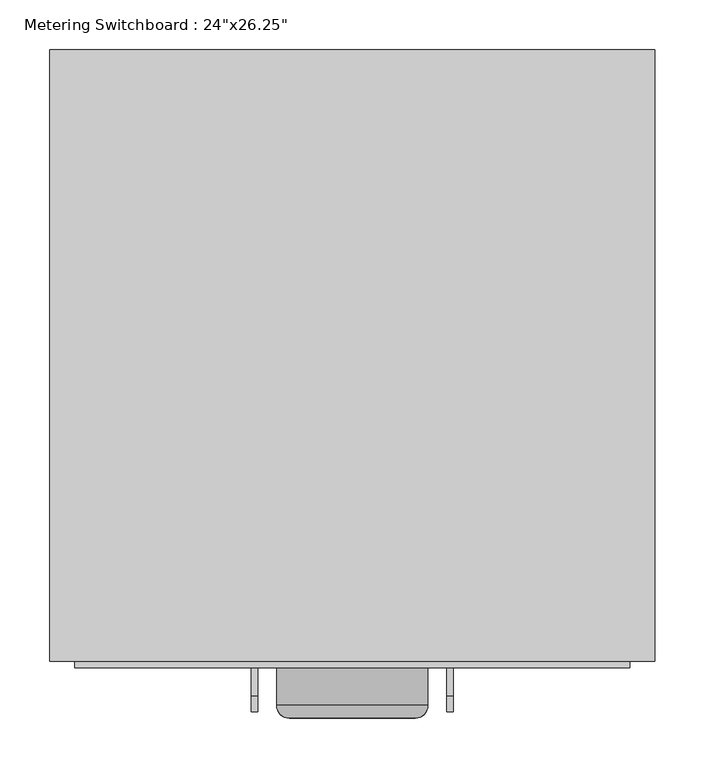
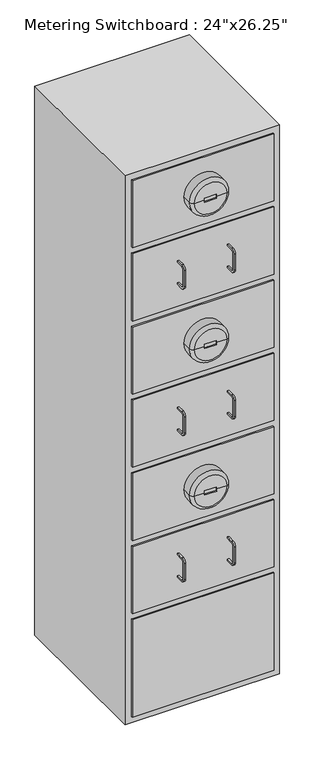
"""IFC4 building model written with IfcOpenShell, lengths in millimetres: proxy geometry."""

from ifc_helpers import new_model, si_unit, point, frame, frame_2d, origin, origin_with_axes, place, context, project, spatial, polyline, circle_curve, ellipse_curve, trimmed, segment, composite_curve, outline, extrude, source, transform, mapped, element, save
from ifc_brep_helpers import plane_surface, cylinder_surface, revolved_surface, advanced_brep


def proxy_f2fcea41(model_context):
    return source(origin(), model_context, "Body", "SolidModel", [
        advanced_brep(
        [(0.0, -622.3, 2120.9), (76.2, -622.3, 2120.9), (-76.2, -622.3, 2120.9), (-63.5, -673.1, 2120.9), (63.5, -673.1, 2120.9), (25.4, -673.1, 2120.9), (25.4, -673.1, 2111.375), (-25.4, -673.1, 2111.375), (-25.4, -673.1, 2120.9), (-25.4, -673.1, 2130.425), (25.4, -673.1, 2130.425), (-76.2, -660.4, 2120.9), (76.2, -660.4, 2120.9), (25.4, -666.75, 2130.425), (-25.4, -666.75, 2130.425), (-25.4, -666.75, 2111.375), (25.4, -666.75, 2111.375)],
        [
            (0, 1),
            (1, 2, circle_curve(frame((0.0, -622.3, 2120.9), z_axis=(0.0, 1.0, 0.0), x_axis=(1.0, 0.0, 0.0)), 76.2)),
            (2, 0),
            (2, 1, circle_curve(frame((0.0, -622.3, 2120.9), z_axis=(0.0, 1.0, 0.0), x_axis=(1.0, 0.0, 0.0)), 76.2)),
            (3, 4, circle_curve(frame((0.0, -673.1, 2120.9), z_axis=(0.0, -1.0, 0.0), x_axis=(1.0, 0.0, 0.0)), 63.5)),
            (4, 5),
            (5, 6),
            (6, 7),
            (7, 8),
            (8, 3),
            (4, 3, circle_curve(frame((0.0, -673.1, 2120.9), z_axis=(0.0, -1.0, 0.0), x_axis=(1.0, 0.0, 0.0)), 63.5)),
            (8, 9),
            (9, 10),
            (10, 5),
            (3, 11, circle_curve(frame((-63.5, -660.4, 2120.9), z_axis=(0.0, 0.0, -1.0), x_axis=(-1.0, 0.0, 0.0)), 12.7)),
            (11, 12, circle_curve(frame((0.0, -660.4, 2120.9), z_axis=(0.0, -1.0, 0.0), x_axis=(1.0, 0.0, 0.0)), 76.2)),
            (12, 4, circle_curve(frame((63.5, -660.4, 2120.9), z_axis=(0.0, 0.0, -1.0), x_axis=(1.0, 0.0, 0.0)), 12.7)),
            (12, 11, circle_curve(frame((0.0, -660.4, 2120.9), z_axis=(0.0, -1.0, 0.0), x_axis=(1.0, 0.0, 0.0)), 76.2)),
            (1, 12),
            (11, 2),
            (13, 14),
            (14, 15),
            (15, 16),
            (16, 13),
            (13, 10),
            (9, 14),
            (7, 15),
            (6, 16),
        ],
        [
            plane_surface(frame((0.0, -622.3, 2120.9), z_axis=(0.0, 1.0, 0.0), x_axis=(1.0, 0.0, 0.0))),
            plane_surface(frame((0.0, -673.1, 2120.9), z_axis=(0.0, -1.0, 0.0), x_axis=(1.0, 0.0, 0.0))),
            revolved_surface(trimmed(ellipse_curve(frame((63.5, -660.4, 2120.9), z_axis=(0.0, 0.0, 1.0), x_axis=(1.0, 0.0, 0.0)), 12.7, 12.7), [point((63.5, -673.1, 2120.9))], [point((76.2, -660.4, 2120.9))], True, "CARTESIAN"), (0.0, -622.3, 2120.9), (0.0, 1.0, 0.0)),
            cylinder_surface(frame((0.0, -622.3, 2120.9), z_axis=(0.0, 1.0, 0.0), x_axis=(1.0, 0.0, 0.0)), 76.2),
            plane_surface(frame((-25.4, -666.75, 2130.425), z_axis=(0.0, -1.0, 0.0), x_axis=(1.0, 0.0, 0.0))),
            plane_surface(frame((25.4, -673.1, 2130.425), z_axis=(0.0, 0.0, -1.0), x_axis=(0.0, 1.0, 0.0))),
            plane_surface(frame((-25.4, -673.1, 2130.425), z_axis=(1.0, 0.0, 0.0), x_axis=(0.0, 1.0, 0.0))),
            plane_surface(frame((-25.4, -673.1, 2111.375), z_axis=(0.0, 0.0, 1.0), x_axis=(0.0, 1.0, 0.0))),
            plane_surface(frame((25.4, -673.1, 2111.375), z_axis=(-1.0, 0.0, 0.0), x_axis=(0.0, 1.0, 0.0))),
        ],
        [
            (0, [[1, 2, 3]]),
            (0, [[-1, -3, 4]]),
            (1, [[5, 6, 7, 8, 9, 10]]),
            (1, [[11, -10, 12, 13, 14, -6]]),
            (2, [[-5, 15, 16, 17]]),
            (2, [[-11, -17, 18, -15]]),
            (3, [[-2, 19, -16, 20]]),
            (3, [[-4, -20, -18, -19]]),
            (4, [[21, 22, 23, 24]]),
            (5, [[-21, 25, -13, 26]]),
            (6, [[-22, -26, -12, -9, 27]]),
            (7, [[-23, -27, -8, 28]]),
            (8, [[-24, -28, -7, -14, -25]]),
        ],
    ),
        advanced_brep(
        [(0.0, -622.3, 1511.3), (76.2, -622.3, 1511.3), (-76.2, -622.3, 1511.3), (-63.5, -673.1, 1511.3), (63.5, -673.1, 1511.3), (25.4, -673.1, 1511.3), (25.4, -673.1, 1501.775), (-25.4, -673.1, 1501.775), (-25.4, -673.1, 1511.3), (-25.4, -673.1, 1520.825), (25.4, -673.1, 1520.825), (-76.2, -660.4, 1511.3), (76.2, -660.4, 1511.3), (25.4, -666.75, 1520.825), (-25.4, -666.75, 1520.825), (-25.4, -666.75, 1501.775), (25.4, -666.75, 1501.775)],
        [
            (0, 1),
            (1, 2, circle_curve(frame((0.0, -622.3, 1511.3), z_axis=(0.0, 1.0, 0.0), x_axis=(1.0, 0.0, 0.0)), 76.2)),
            (2, 0),
            (2, 1, circle_curve(frame((0.0, -622.3, 1511.3), z_axis=(0.0, 1.0, 0.0), x_axis=(1.0, 0.0, 0.0)), 76.2)),
            (3, 4, circle_curve(frame((0.0, -673.1, 1511.3), z_axis=(0.0, -1.0, 0.0), x_axis=(1.0, 0.0, 0.0)), 63.5)),
            (4, 5),
            (5, 6),
            (6, 7),
            (7, 8),
            (8, 3),
            (4, 3, circle_curve(frame((0.0, -673.1, 1511.3), z_axis=(0.0, -1.0, 0.0), x_axis=(1.0, 0.0, 0.0)), 63.5)),
            (8, 9),
            (9, 10),
            (10, 5),
            (3, 11, circle_curve(frame((-63.5, -660.4, 1511.3), z_axis=(0.0, 0.0, -1.0), x_axis=(-1.0, 0.0, 0.0)), 12.7)),
            (11, 12, circle_curve(frame((0.0, -660.4, 1511.3), z_axis=(0.0, -1.0, 0.0), x_axis=(1.0, 0.0, 0.0)), 76.2)),
            (12, 4, circle_curve(frame((63.5, -660.4, 1511.3), z_axis=(0.0, 0.0, -1.0), x_axis=(1.0, 0.0, 0.0)), 12.7)),
            (12, 11, circle_curve(frame((0.0, -660.4, 1511.3), z_axis=(0.0, -1.0, 0.0), x_axis=(1.0, 0.0, 0.0)), 76.2)),
            (1, 12),
            (11, 2),
            (13, 14),
            (14, 15),
            (15, 16),
            (16, 13),
            (13, 10),
            (9, 14),
            (7, 15),
            (6, 16),
        ],
        [
            plane_surface(frame((0.0, -622.3, 1511.3), z_axis=(0.0, 1.0, 0.0), x_axis=(1.0, 0.0, 0.0))),
            plane_surface(frame((0.0, -673.1, 1511.3), z_axis=(0.0, -1.0, 0.0), x_axis=(1.0, 0.0, 0.0))),
            revolved_surface(trimmed(ellipse_curve(frame((63.5, -660.4, 1511.3), z_axis=(0.0, 0.0, 1.0), x_axis=(1.0, 0.0, 0.0)), 12.7, 12.7), [point((63.5, -673.1, 1511.3))], [point((76.2, -660.4, 1511.3))], True, "CARTESIAN"), (0.0, -622.3, 1511.3), (0.0, 1.0, 0.0)),
            cylinder_surface(frame((0.0, -622.3, 1511.3), z_axis=(0.0, 1.0, 0.0), x_axis=(1.0, 0.0, 0.0)), 76.2),
            plane_surface(frame((-25.4, -666.75, 1520.825), z_axis=(0.0, -1.0, 0.0), x_axis=(1.0, 0.0, 0.0))),
            plane_surface(frame((25.4, -673.1, 1520.825), z_axis=(0.0, 0.0, -1.0), x_axis=(0.0, 1.0, 0.0))),
            plane_surface(frame((-25.4, -673.1, 1520.825), z_axis=(1.0, 0.0, 0.0), x_axis=(0.0, 1.0, 0.0))),
            plane_surface(frame((-25.4, -673.1, 1501.775), z_axis=(0.0, 0.0, 1.0), x_axis=(0.0, 1.0, 0.0))),
            plane_surface(frame((25.4, -673.1, 1501.775), z_axis=(-1.0, 0.0, 0.0), x_axis=(0.0, 1.0, 0.0))),
        ],
        [
            (0, [[1, 2, 3]]),
            (0, [[-1, -3, 4]]),
            (1, [[5, 6, 7, 8, 9, 10]]),
            (1, [[11, -10, 12, 13, 14, -6]]),
            (2, [[-5, 15, 16, 17]]),
            (2, [[-11, -17, 18, -15]]),
            (3, [[-2, 19, -16, 20]]),
            (3, [[-4, -20, -18, -19]]),
            (4, [[21, 22, 23, 24]]),
            (5, [[-21, 25, -13, 26]]),
            (6, [[-22, -26, -12, -9, 27]]),
            (7, [[-23, -27, -8, 28]]),
            (8, [[-24, -28, -7, -14, -25]]),
        ],
    ),
        advanced_brep(
        [(0.0, -622.3, 901.7), (76.2, -622.3, 901.7), (-76.2, -622.3, 901.7), (-63.5, -673.1, 901.7), (63.5, -673.1, 901.7), (25.4, -673.1, 901.7), (25.4, -673.1, 892.175), (-25.4, -673.1, 892.175), (-25.4, -673.1, 901.7), (-25.4, -673.1, 911.225), (25.4, -673.1, 911.225), (-76.2, -660.4, 901.7), (76.2, -660.4, 901.7), (25.4, -666.75, 911.225), (-25.4, -666.75, 911.225), (-25.4, -666.75, 892.175), (25.4, -666.75, 892.175)],
        [
            (0, 1),
            (1, 2, circle_curve(frame((0.0, -622.3, 901.7), z_axis=(0.0, 1.0, 0.0), x_axis=(1.0, 0.0, 0.0)), 76.2)),
            (2, 0),
            (2, 1, circle_curve(frame((0.0, -622.3, 901.7), z_axis=(0.0, 1.0, 0.0), x_axis=(1.0, 0.0, 0.0)), 76.2)),
            (3, 4, circle_curve(frame((0.0, -673.1, 901.7), z_axis=(0.0, -1.0, 0.0), x_axis=(1.0, 0.0, 0.0)), 63.5)),
            (4, 5),
            (5, 6),
            (6, 7),
            (7, 8),
            (8, 3),
            (4, 3, circle_curve(frame((0.0, -673.1, 901.7), z_axis=(0.0, -1.0, 0.0), x_axis=(1.0, 0.0, 0.0)), 63.5)),
            (8, 9),
            (9, 10),
            (10, 5),
            (3, 11, circle_curve(frame((-63.5, -660.4, 901.7), z_axis=(0.0, 0.0, -1.0), x_axis=(-1.0, 0.0, 0.0)), 12.7)),
            (11, 12, circle_curve(frame((0.0, -660.4, 901.7), z_axis=(0.0, -1.0, 0.0), x_axis=(1.0, 0.0, 0.0)), 76.2)),
            (12, 4, circle_curve(frame((63.5, -660.4, 901.7), z_axis=(0.0, 0.0, -1.0), x_axis=(1.0, 0.0, 0.0)), 12.7)),
            (12, 11, circle_curve(frame((0.0, -660.4, 901.7), z_axis=(0.0, -1.0, 0.0), x_axis=(1.0, 0.0, 0.0)), 76.2)),
            (1, 12),
            (11, 2),
            (13, 14),
            (14, 15),
            (15, 16),
            (16, 13),
            (13, 10),
            (9, 14),
            (7, 15),
            (6, 16),
        ],
        [
            plane_surface(frame((0.0, -622.3, 901.7), z_axis=(0.0, 1.0, 0.0), x_axis=(1.0, 0.0, 0.0))),
            plane_surface(frame((0.0, -673.1, 901.7), z_axis=(0.0, -1.0, 0.0), x_axis=(1.0, 0.0, 0.0))),
            revolved_surface(trimmed(ellipse_curve(frame((63.5, -660.4, 901.7), z_axis=(0.0, 0.0, 1.0), x_axis=(1.0, 0.0, 0.0)), 12.7, 12.7), [point((63.5, -673.1, 901.7))], [point((76.2, -660.4, 901.7))], True, "CARTESIAN"), (0.0, -622.3, 901.7), (0.0, 1.0, 0.0)),
            cylinder_surface(frame((0.0, -622.3, 901.7), z_axis=(0.0, 1.0, 0.0), x_axis=(1.0, 0.0, 0.0)), 76.2),
            plane_surface(frame((-25.4, -666.75, 911.225), z_axis=(0.0, -1.0, 0.0), x_axis=(1.0, 0.0, 0.0))),
            plane_surface(frame((25.4, -673.1, 911.225), z_axis=(0.0, 0.0, -1.0), x_axis=(0.0, 1.0, 0.0))),
            plane_surface(frame((-25.4, -673.1, 911.225), z_axis=(1.0, 0.0, 0.0), x_axis=(0.0, 1.0, 0.0))),
            plane_surface(frame((-25.4, -673.1, 892.175), z_axis=(0.0, 0.0, 1.0), x_axis=(0.0, 1.0, 0.0))),
            plane_surface(frame((25.4, -673.1, 892.175), z_axis=(-1.0, 0.0, 0.0), x_axis=(0.0, 1.0, 0.0))),
        ],
        [
            (0, [[1, 2, 3]]),
            (0, [[-1, -3, 4]]),
            (1, [[5, 6, 7, 8, 9, 10]]),
            (1, [[11, -10, 12, 13, 14, -6]]),
            (2, [[-5, 15, 16, 17]]),
            (2, [[-11, -17, 18, -15]]),
            (3, [[-2, 19, -16, 20]]),
            (3, [[-4, -20, -18, -19]]),
            (4, [[21, 22, 23, 24]]),
            (5, [[-21, 25, -13, 26]]),
            (6, [[-22, -26, -12, -9, 27]]),
            (7, [[-23, -27, -8, 28]]),
            (8, [[-24, -28, -7, -14, -25]]),
        ],
    ),
        extrude(outline(composite_curve([segment(trimmed(circle_curve(frame_2d((-650.875, 1239.8375)), 9.525), [point((-650.875, 1249.3625))], [point((-660.4, 1239.8375))], True, "CARTESIAN"), True, "CONTINUOUS"), segment(polyline([(-660.4, 1239.8375), (-660.4, 1173.1625)]), True, "CONTINUOUS"), segment(trimmed(circle_curve(frame_2d((-650.875, 1173.1625)), 9.525), [point((-660.4, 1173.1625))], [point((-650.875, 1163.6375))], True, "CARTESIAN"), True, "CONTINUOUS"), segment(polyline([(-650.875, 1163.6375), (-622.3, 1163.6375), (-622.3, 1157.2875), (-650.875, 1157.2875)]), True, "CONTINUOUS"), segment(trimmed(circle_curve(frame_2d((-650.875, 1173.1625)), 15.875), [point((-650.875, 1157.2875))], [point((-666.75, 1173.1625))], False, "CARTESIAN"), True, "CONTINUOUS"), segment(polyline([(-666.75, 1173.1625), (-666.75, 1239.8375)]), True, "CONTINUOUS"), segment(trimmed(circle_curve(frame_2d((-650.875, 1239.8375)), 15.875), [point((-666.75, 1239.8375))], [point((-650.875, 1255.7125))], False, "CARTESIAN"), True, "CONTINUOUS"), segment(polyline([(-650.875, 1255.7125), (-622.3, 1255.7125), (-622.3, 1249.3625), (-650.875, 1249.3625)]), True, "CONTINUOUS")], self_intersect=False)), frame((95.25, 0.0, 0.0), z_axis=(1.0, 0.0, 0.0), x_axis=(0.0, 1.0, 0.0)), (0.0, 0.0, 1.0), 6.35),
        extrude(outline(composite_curve([segment(trimmed(circle_curve(frame_2d((-650.875, 1239.8375)), 9.525), [point((-650.875, 1249.3625))], [point((-660.4, 1239.8375))], True, "CARTESIAN"), True, "CONTINUOUS"), segment(polyline([(-660.4, 1239.8375), (-660.4, 1173.1625)]), True, "CONTINUOUS"), segment(trimmed(circle_curve(frame_2d((-650.875, 1173.1625)), 9.525), [point((-660.4, 1173.1625))], [point((-650.875, 1163.6375))], True, "CARTESIAN"), True, "CONTINUOUS"), segment(polyline([(-650.875, 1163.6375), (-622.3, 1163.6375), (-622.3, 1157.2875), (-650.875, 1157.2875)]), True, "CONTINUOUS"), segment(trimmed(circle_curve(frame_2d((-650.875, 1173.1625)), 15.875), [point((-650.875, 1157.2875))], [point((-666.75, 1173.1625))], False, "CARTESIAN"), True, "CONTINUOUS"), segment(polyline([(-666.75, 1173.1625), (-666.75, 1239.8375)]), True, "CONTINUOUS"), segment(trimmed(circle_curve(frame_2d((-650.875, 1239.8375)), 15.875), [point((-666.75, 1239.8375))], [point((-650.875, 1255.7125))], False, "CARTESIAN"), True, "CONTINUOUS"), segment(polyline([(-650.875, 1255.7125), (-622.3, 1255.7125), (-622.3, 1249.3625), (-650.875, 1249.3625)]), True, "CONTINUOUS")], self_intersect=False)), frame((-101.6, 0.0, 0.0), z_axis=(1.0, 0.0, 0.0), x_axis=(0.0, 1.0, 0.0)), (0.0, 0.0, 1.0), 6.35),
        extrude(outline(composite_curve([segment(trimmed(circle_curve(frame_2d((-650.875, 630.2375)), 9.525), [point((-650.875, 639.7625))], [point((-660.4, 630.2375))], True, "CARTESIAN"), True, "CONTINUOUS"), segment(polyline([(-660.4, 630.2375), (-660.4, 563.5625)]), True, "CONTINUOUS"), segment(trimmed(circle_curve(frame_2d((-650.875, 563.5625)), 9.525), [point((-660.4, 563.5625))], [point((-650.875, 554.0375))], True, "CARTESIAN"), True, "CONTINUOUS"), segment(polyline([(-650.875, 554.0375), (-622.3, 554.0375), (-622.3, 547.6875), (-650.875, 547.6875)]), True, "CONTINUOUS"), segment(trimmed(circle_curve(frame_2d((-650.875, 563.5625)), 15.875), [point((-650.875, 547.6875))], [point((-666.75, 563.5625))], False, "CARTESIAN"), True, "CONTINUOUS"), segment(polyline([(-666.75, 563.5625), (-666.75, 630.2375)]), True, "CONTINUOUS"), segment(trimmed(circle_curve(frame_2d((-650.875, 630.2375)), 15.875), [point((-666.75, 630.2375))], [point((-650.875, 646.1125))], False, "CARTESIAN"), True, "CONTINUOUS"), segment(polyline([(-650.875, 646.1125), (-622.3, 646.1125), (-622.3, 639.7625), (-650.875, 639.7625)]), True, "CONTINUOUS")], self_intersect=False)), frame((95.25, 0.0, 0.0), z_axis=(1.0, 0.0, 0.0), x_axis=(0.0, 1.0, 0.0)), (0.0, 0.0, 1.0), 6.35),
        extrude(outline(composite_curve([segment(trimmed(circle_curve(frame_2d((-650.875, 630.2375)), 9.525), [point((-650.875, 639.7625))], [point((-660.4, 630.2375))], True, "CARTESIAN"), True, "CONTINUOUS"), segment(polyline([(-660.4, 630.2375), (-660.4, 563.5625)]), True, "CONTINUOUS"), segment(trimmed(circle_curve(frame_2d((-650.875, 563.5625)), 9.525), [point((-660.4, 563.5625))], [point((-650.875, 554.0375))], True, "CARTESIAN"), True, "CONTINUOUS"), segment(polyline([(-650.875, 554.0375), (-622.3, 554.0375), (-622.3, 547.6875), (-650.875, 547.6875)]), True, "CONTINUOUS"), segment(trimmed(circle_curve(frame_2d((-650.875, 563.5625)), 15.875), [point((-650.875, 547.6875))], [point((-666.75, 563.5625))], False, "CARTESIAN"), True, "CONTINUOUS"), segment(polyline([(-666.75, 563.5625), (-666.75, 630.2375)]), True, "CONTINUOUS"), segment(trimmed(circle_curve(frame_2d((-650.875, 630.2375)), 15.875), [point((-666.75, 630.2375))], [point((-650.875, 646.1125))], False, "CARTESIAN"), True, "CONTINUOUS"), segment(polyline([(-650.875, 646.1125), (-622.3, 646.1125), (-622.3, 639.7625), (-650.875, 639.7625)]), True, "CONTINUOUS")], self_intersect=False)), frame((-101.6, 0.0, 0.0), z_axis=(1.0, 0.0, 0.0), x_axis=(0.0, 1.0, 0.0)), (0.0, 0.0, 1.0), 6.35),
        extrude(outline(composite_curve([segment(trimmed(circle_curve(frame_2d((-650.875, 1849.4375)), 9.525), [point((-650.875, 1858.9625))], [point((-660.4, 1849.4375))], True, "CARTESIAN"), True, "CONTINUOUS"), segment(polyline([(-660.4, 1849.4375), (-660.4, 1782.7625)]), True, "CONTINUOUS"), segment(trimmed(circle_curve(frame_2d((-650.875, 1782.7625)), 9.525), [point((-660.4, 1782.7625))], [point((-650.875, 1773.2375))], True, "CARTESIAN"), True, "CONTINUOUS"), segment(polyline([(-650.875, 1773.2375), (-622.3, 1773.2375), (-622.3, 1766.8875), (-650.875, 1766.8875)]), True, "CONTINUOUS"), segment(trimmed(circle_curve(frame_2d((-650.875, 1782.7625)), 15.875), [point((-650.875, 1766.8875))], [point((-666.75, 1782.7625))], False, "CARTESIAN"), True, "CONTINUOUS"), segment(polyline([(-666.75, 1782.7625), (-666.75, 1849.4375)]), True, "CONTINUOUS"), segment(trimmed(circle_curve(frame_2d((-650.875, 1849.4375)), 15.875), [point((-666.75, 1849.4375))], [point((-650.875, 1865.3125))], False, "CARTESIAN"), True, "CONTINUOUS"), segment(polyline([(-650.875, 1865.3125), (-622.3, 1865.3125), (-622.3, 1858.9625), (-650.875, 1858.9625)]), True, "CONTINUOUS")], self_intersect=False)), frame((95.25, 0.0, 0.0), z_axis=(1.0, 0.0, 0.0), x_axis=(0.0, 1.0, 0.0)), (0.0, 0.0, 1.0), 6.35),
        extrude(outline(composite_curve([segment(trimmed(circle_curve(frame_2d((-650.875, 1849.4375)), 9.525), [point((-650.875, 1858.9625))], [point((-660.4, 1849.4375))], True, "CARTESIAN"), True, "CONTINUOUS"), segment(polyline([(-660.4, 1849.4375), (-660.4, 1782.7625)]), True, "CONTINUOUS"), segment(trimmed(circle_curve(frame_2d((-650.875, 1782.7625)), 9.525), [point((-660.4, 1782.7625))], [point((-650.875, 1773.2375))], True, "CARTESIAN"), True, "CONTINUOUS"), segment(polyline([(-650.875, 1773.2375), (-622.3, 1773.2375), (-622.3, 1766.8875), (-650.875, 1766.8875)]), True, "CONTINUOUS"), segment(trimmed(circle_curve(frame_2d((-650.875, 1782.7625)), 15.875), [point((-650.875, 1766.8875))], [point((-666.75, 1782.7625))], False, "CARTESIAN"), True, "CONTINUOUS"), segment(polyline([(-666.75, 1782.7625), (-666.75, 1849.4375)]), True, "CONTINUOUS"), segment(trimmed(circle_curve(frame_2d((-650.875, 1849.4375)), 15.875), [point((-666.75, 1849.4375))], [point((-650.875, 1865.3125))], False, "CARTESIAN"), True, "CONTINUOUS"), segment(polyline([(-650.875, 1865.3125), (-622.3, 1865.3125), (-622.3, 1858.9625), (-650.875, 1858.9625)]), True, "CONTINUOUS")], self_intersect=False)), frame((-101.6, 0.0, 0.0), z_axis=(1.0, 0.0, 0.0), x_axis=(0.0, 1.0, 0.0)), (0.0, 0.0, 1.0), 6.35),
        extrude(outline(polyline([(304.8, 0.0), (304.8, -615.95), (-304.8, -615.95), (-304.8, 0.0), (304.8, 0.0)])), origin_with_axes(), (0.0, 0.0, 1.0), 2286.0),
        extrude(outline(polyline([(279.4, -622.3), (-279.4, -622.3), (-279.4, -615.95), (279.4, -615.95), (279.4, -622.3)])), frame((0.0, 0.0, 1981.2), z_axis=(0.0, 0.0, 1.0), x_axis=(1.0, 0.0, 0.0)), (0.0, 0.0, 1.0), 279.4),
        extrude(outline(polyline([(279.4, -622.3), (-279.4, -622.3), (-279.4, -615.95), (279.4, -615.95), (279.4, -622.3)])), frame((0.0, 0.0, 1676.4), z_axis=(0.0, 0.0, 1.0), x_axis=(1.0, 0.0, 0.0)), (0.0, 0.0, 1.0), 279.4),
        extrude(outline(polyline([(279.4, -622.3), (-279.4, -622.3), (-279.4, -615.95), (279.4, -615.95), (279.4, -622.3)])), frame((0.0, 0.0, 1371.6), z_axis=(0.0, 0.0, 1.0), x_axis=(1.0, 0.0, 0.0)), (0.0, 0.0, 1.0), 279.4),
        extrude(outline(polyline([(279.4, -622.3), (-279.4, -622.3), (-279.4, -615.95), (279.4, -615.95), (279.4, -622.3)])), frame((0.0, 0.0, 1066.8), z_axis=(0.0, 0.0, 1.0), x_axis=(1.0, 0.0, 0.0)), (0.0, 0.0, 1.0), 279.4),
        extrude(outline(polyline([(279.4, -622.3), (-279.4, -622.3), (-279.4, -615.95), (279.4, -615.95), (279.4, -622.3)])), frame((0.0, 0.0, 762.0), z_axis=(0.0, 0.0, 1.0), x_axis=(1.0, 0.0, 0.0)), (0.0, 0.0, 1.0), 279.4),
        extrude(outline(polyline([(279.4, -622.3), (-279.4, -622.3), (-279.4, -615.95), (279.4, -615.95), (279.4, -622.3)])), frame((0.0, 0.0, 457.2), z_axis=(0.0, 0.0, 1.0), x_axis=(1.0, 0.0, 0.0)), (0.0, 0.0, 1.0), 279.4),
        extrude(outline(polyline([(279.4, -622.3), (-279.4, -622.3), (-279.4, -615.95), (279.4, -615.95), (279.4, -622.3)])), frame((0.0, 0.0, 25.4), z_axis=(0.0, 0.0, 1.0), x_axis=(1.0, 0.0, 0.0)), (0.0, 0.0, 1.0), 406.4),
    ])


if __name__ == "__main__":
    model = new_model("IFC4")
    model_context = context("Model", 3, world=origin())
    ifc_project = project(units=[si_unit("LENGTHUNIT", "METRE", prefix="MILLI")], contexts=[model_context])
    site = spatial("IfcSite", under=ifc_project)
    building = spatial("IfcBuilding", under=site)
    placement = place(None, origin())
    proxy_shape = proxy_f2fcea41(model_context)
    element("IfcBuildingElementProxy", 1, Name="Metering Switchboard : 24\"x26.25\"", ObjectType="Metering Switchboard : 24\"x26.25\"", at=placement, inside=building, context=model_context, shape_type="MappedRepresentation", body=[
        mapped(proxy_shape, transform((0.0, 0.0, 0.0), x_axis=(1.0, 0.0, 0.0), y_axis=(0.0, 1.0, 0.0), z_axis=(0.0, 0.0, 1.0))),
    ])
    save(model, "model.ifc")
